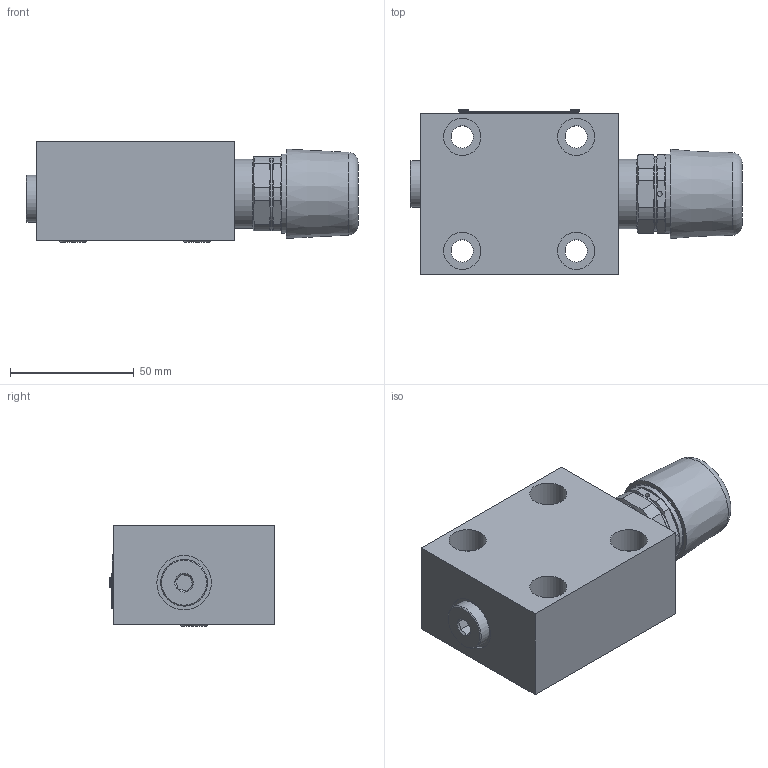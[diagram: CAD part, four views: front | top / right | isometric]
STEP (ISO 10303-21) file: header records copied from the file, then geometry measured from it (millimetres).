
FILE_DESCRIPTION(/* description */ (''),/* implementation_level */ '2;1');
FILE_NAME(/* name */ 'LFA16DB2控制盖板（内六角调节）.prt.stp',/* time_stamp */ '2022-03-30T18:47:39+08:00',/* author */ (''),/* organization */ (''),/* preprocessor_version */ 'ST-DEVELOPER v16.7',/* originating_system */ 'SIEMENS PLM Software NX 12.0',/* authorisation */ '');
FILE_SCHEMA (('AUTOMOTIVE_DESIGN { 1 0 10303 214 3 1 1 1 }'));
Length unit declared in the file: millimetre
Products named in the file (1): LFA16DB2控制盖板（内六角调节）
Bounding box: 134.01 x 66.6 x 40.58 mm (x, y, z)
Volume: 231068.8 mm3; surface area: 51889.1 mm2
Topology: 13 solids, 13 shells, 226 faces, 506 edges, 322 vertices
Faces by surface type: plane 85, cylinder 78, cone 41, torus 14, bspline 8
Full cylindrical faces by diameter (mm): 1.5 x2, 1.8 x8, 2 x1, 3 x1, 4 x2, 5 x2, 5.4 x1, 9 x4, 11.093 x1, 11.1 x1, 11.2 x2, 11.5 x1, 12.5 x1, 15 x4, 16.2 x2, 18.9 x1, 19.538 x1, 20 x1, 22 x2, 23.6 x1, 28 x2, 30 x2, 32 x2
Entity records: 11460 total; most frequent: CARTESIAN_POINT 6701, DIRECTION 901, ORIENTED_EDGE 816, EDGE_CURVE 408, AXIS2_PLACEMENT_3D 394, EDGE_LOOP 350, VERTEX_POINT 307, FACE_BOUND 243
